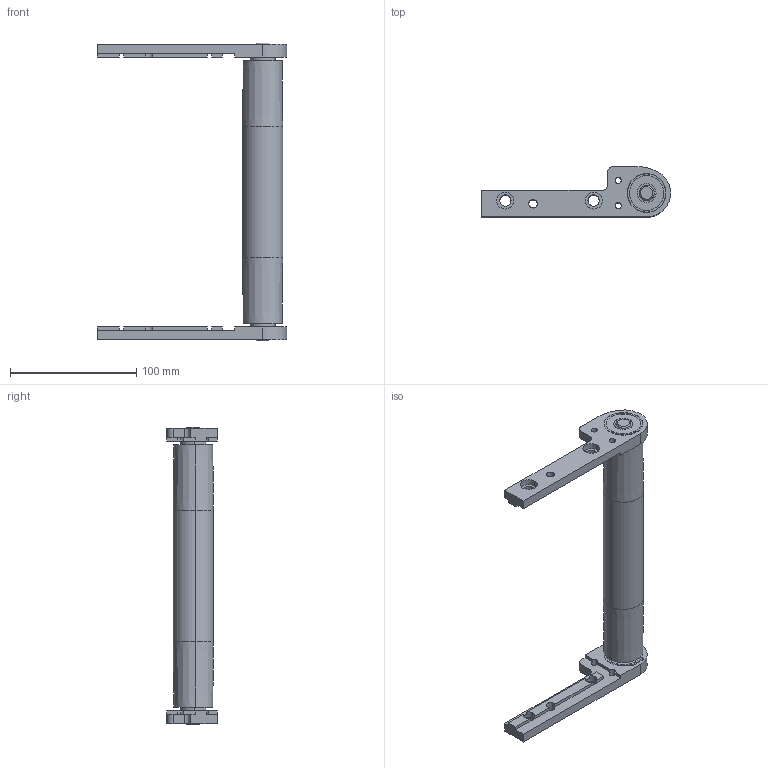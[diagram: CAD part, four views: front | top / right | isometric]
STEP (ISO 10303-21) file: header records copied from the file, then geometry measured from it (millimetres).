
FILE_DESCRIPTION (( 'STEP AP203' ), '1' );
FILE_NAME ('084.030.KIS.200.STEP', '2019-07-29T09:51:54', ( '' ), ( '' ), 'SwSTEP 2.0', 'SolidWorks 2018', '' );
FILE_SCHEMA (( 'CONFIG_CONTROL_DESIGN' ));
Length unit declared in the file: millimetre
Products named in the file (5): 084.801.027 dx; 084.801.027 sx; 084.030.KIS.200; 084.030.135; 62012RSBOMB_62012RSBOMB
Assembly tree (5 placements, depth 2):
  084.030.KIS.200
    084.030.135
    084.801.027 dx
    084.801.027 sx
    62012RSBOMB_62012RSBOMB  x2
Bounding box: 150 x 40 x 236 mm (x, y, z)
Volume: 230544.6 mm3; surface area: 51908.8 mm2
Topology: 5 solids, 5 shells, 182 faces, 512 edges, 338 vertices
Faces by surface type: cylinder 84, plane 82, cone 8, sphere 8
Entity records: 5959 total; most frequent: DIRECTION 1004, CARTESIAN_POINT 966, ORIENTED_EDGE 908, EDGE_CURVE 454, AXIS2_PLACEMENT_3D 386, VERTEX_POINT 300, VECTOR 232, LINE 232
